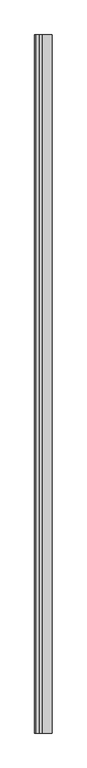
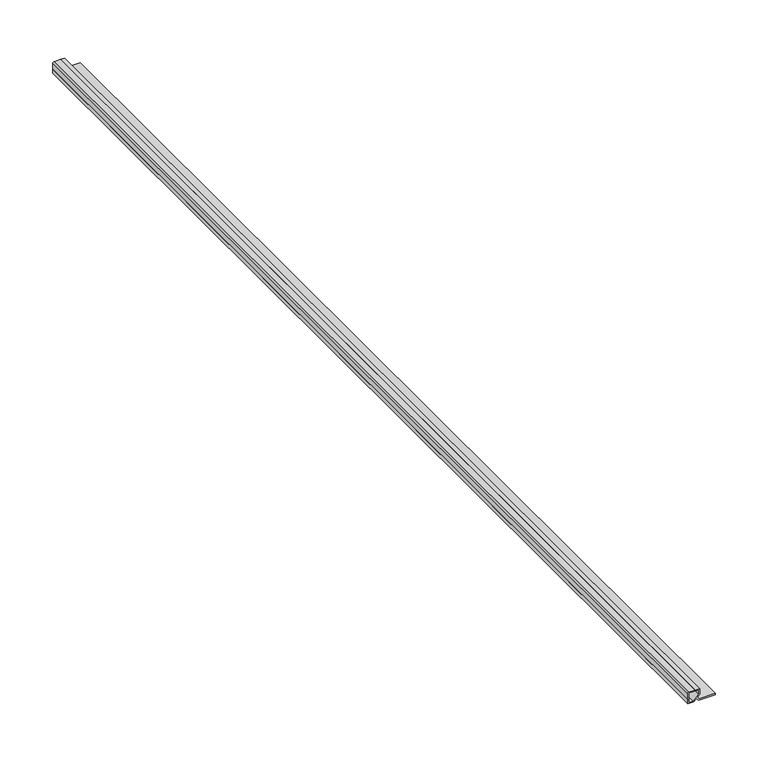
"""IFC4 building model written with IfcOpenShell, lengths in millimetres: proxy geometry, PORTOBELLO - METALLICA MET LUMI DOUBLE CORNER 1,3X120 : LUMI DOUBLE CORNER 1,3X120."""

from ifc_helpers import new_model, si_unit, point, frame, frame_2d, origin, place, context, project, spatial, polyline, circle_curve, trimmed, segment, composite_curve, outline, extrude, source, transform, mapped, element, save


def generic_models_0ccefe23(model_context):
    return source(origin(), model_context, "Body", "SweptSolid", [
        extrude(outline(polyline([(1.0, 6.5), (1.0, 1.9743699), (0.0, 2.9743699), (0.0, 5.5), (-5.0857864, 5.5), (-11.0, -0.4142136), (-11.0, -5.5), (-8.4743699, -5.5), (-7.4743699, -6.5), (-12.0, -6.5), (-12.0, 0.0), (-9.3001402, 2.6998598), (-12.0, 5.3997197), (-12.0, 23.5), (-10.5, 23.5), (-10.5, 6.02104), (-8.23948, 3.76052), (-5.5, 6.5), (1.0, 6.5)])), frame((0.0, -600.0, 0.0), z_axis=(0.0, 1.0, 0.0), x_axis=(0.0, 0.0, 1.0)), (0.0, 0.0, 1.0), 1200.0),
        extrude(outline(composite_curve([segment(trimmed(circle_curve(frame_2d((-0.3, -5.2)), 1.3), [point((1.0, -5.2))], [point((-0.3, -6.5))], False, "CARTESIAN"), True, "CONTINUOUS"), segment(polyline([(-0.3, -6.5), (-7.4743699, -6.5), (-8.4743699, -5.5), (-0.8, -5.5)]), True, "CONTINUOUS"), segment(trimmed(circle_curve(frame_2d((-0.8, -4.7)), 0.8), [point((-0.8, -5.5))], [point((0.0, -4.7))], True, "CARTESIAN"), True, "CONTINUOUS"), segment(polyline([(0.0, -4.7), (0.0, 2.9743699), (1.0, 1.9743699), (1.0, -5.2)]), True, "CONTINUOUS")], self_intersect=False)), frame((0.0, -600.0, 0.0), z_axis=(0.0, 1.0, 0.0), x_axis=(0.0, 0.0, 1.0)), (0.0, 0.0, 1.0), 1200.0),
    ])


if __name__ == "__main__":
    model = new_model("IFC4")
    model_context = context("Model", 3, world=origin())
    ifc_project = project(units=[si_unit("LENGTHUNIT", "METRE", prefix="MILLI")], contexts=[model_context])
    site = spatial("IfcSite", under=ifc_project)
    building = spatial("IfcBuilding", under=site)
    placement = place(None, origin())
    generic_models_shape = generic_models_0ccefe23(model_context)
    element("IfcBuildingElementProxy", 1, Name="PORTOBELLO - METALLICA MET LUMI DOUBLE CORNER 1,3X120 : LUMI DOUBLE CORNER 1,3X120", ObjectType="PORTOBELLO - METALLICA MET LUMI DOUBLE CORNER 1,3X120 : LUMI DOUBLE CORNER 1,3X120", at=placement, inside=building, context=model_context, shape_type="MappedRepresentation", body=[
        mapped(generic_models_shape, transform((0.0, 0.0, 0.0), x_axis=(1.0, 0.0, 0.0), y_axis=(0.0, 1.0, 0.0), z_axis=(0.0, 0.0, 1.0))),
    ])
    save(model, "model.ifc")
